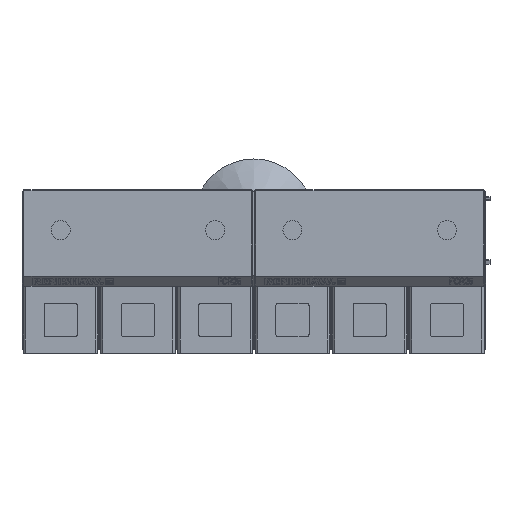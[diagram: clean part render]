
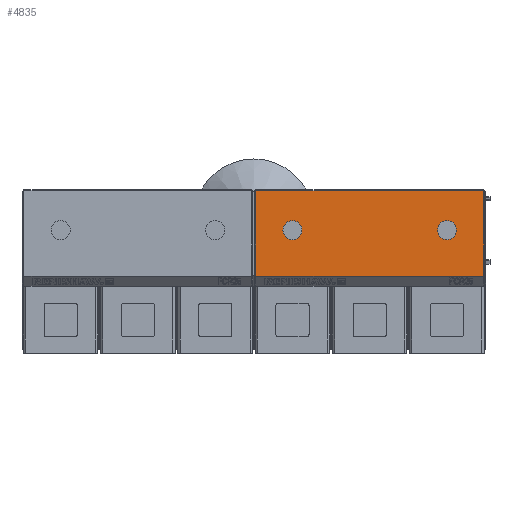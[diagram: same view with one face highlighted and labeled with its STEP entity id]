
A CAD part, top view. The second image highlights one B-rep face of the part: STEP entity #4835.
In plain terms, the highlighted planar face has unit normal (0, 0, 1).
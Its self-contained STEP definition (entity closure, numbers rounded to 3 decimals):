
#4040=FACE_BOUND('',#7037,.T.);
#4041=FACE_BOUND('',#7038,.T.);
#4042=FACE_BOUND('',#7039,.T.);
#4274=CIRCLE('',#20681,4.35);
#4275=CIRCLE('',#20683,4.35);
#4835=ADVANCED_FACE('',(#4040,#4041,#4042),#5531,.T.);
#5531=PLANE('',#20903);
#7037=EDGE_LOOP('',(#9553));
#7038=EDGE_LOOP('',(#9554));
#7039=EDGE_LOOP('',(#9555,#9556,#9557,#9558));
#9553=ORIENTED_EDGE('',*,*,#14755,.F.);
#9554=ORIENTED_EDGE('',*,*,#14756,.F.);
#9555=ORIENTED_EDGE('',*,*,#15164,.T.);
#9556=ORIENTED_EDGE('',*,*,#15127,.T.);
#9557=ORIENTED_EDGE('',*,*,#14767,.T.);
#9558=ORIENTED_EDGE('',*,*,#15165,.T.);
#12796=VERTEX_POINT('',#27307);
#12797=VERTEX_POINT('',#27310);
#12803=VERTEX_POINT('',#27343);
#12808=VERTEX_POINT('',#27352);
#13072=VERTEX_POINT('',#28656);
#13108=VERTEX_POINT('',#28878);
#14755=EDGE_CURVE('',#12796,#12796,#4274,.T.);
#14756=EDGE_CURVE('',#12797,#12797,#4275,.T.);
#14767=EDGE_CURVE('',#12803,#12808,#17047,.T.);
#15127=EDGE_CURVE('',#13072,#12803,#17319,.T.);
#15164=EDGE_CURVE('',#13108,#13072,#17328,.T.);
#15165=EDGE_CURVE('',#12808,#13108,#17329,.T.);
#17047=LINE('',#27353,#19033);
#17319=LINE('',#28655,#19305);
#17328=LINE('',#28877,#19314);
#17329=LINE('',#28879,#19315);
#19033=VECTOR('',#22759,1.);
#19305=VECTOR('',#23453,1.);
#19314=VECTOR('',#23472,1.);
#19315=VECTOR('',#23473,1.);
#20681=AXIS2_PLACEMENT_3D('',#27306,#22739,#22740);
#20683=AXIS2_PLACEMENT_3D('',#27309,#22743,#22744);
#20903=AXIS2_PLACEMENT_3D('',#28880,#23474,#23475);
#22739=DIRECTION('',(0.,0.,1.));
#22740=DIRECTION('',(0.,-1.,0.));
#22743=DIRECTION('',(0.,0.,1.));
#22744=DIRECTION('',(0.,-1.,0.));
#22759=DIRECTION('',(-1.,0.,0.));
#23453=DIRECTION('',(0.,1.,0.));
#23472=DIRECTION('',(1.,0.,0.));
#23473=DIRECTION('',(0.,-1.,0.));
#23474=DIRECTION('',(0.,0.,1.));
#23475=DIRECTION('',(0.,-1.,0.));
#27306=CARTESIAN_POINT('',(176.25,42.75,18.21));
#27307=CARTESIAN_POINT('',(176.25,38.4,18.21));
#27309=CARTESIAN_POINT('',(105.75,42.75,18.21));
#27310=CARTESIAN_POINT('',(105.75,38.4,18.21));
#27343=CARTESIAN_POINT('',(192.975,60.85,18.21));
#27352=CARTESIAN_POINT('',(89.025,60.85,18.21));
#27353=CARTESIAN_POINT('',(141.,60.85,18.21));
#28655=CARTESIAN_POINT('',(192.975,60.85,18.21));
#28656=CARTESIAN_POINT('',(192.975,21.75,18.21));
#28877=CARTESIAN_POINT('',(141.,21.75,18.21));
#28878=CARTESIAN_POINT('',(89.025,21.75,18.21));
#28879=CARTESIAN_POINT('',(89.025,21.75,18.21));
#28880=CARTESIAN_POINT('',(141.,39.25,18.21));
